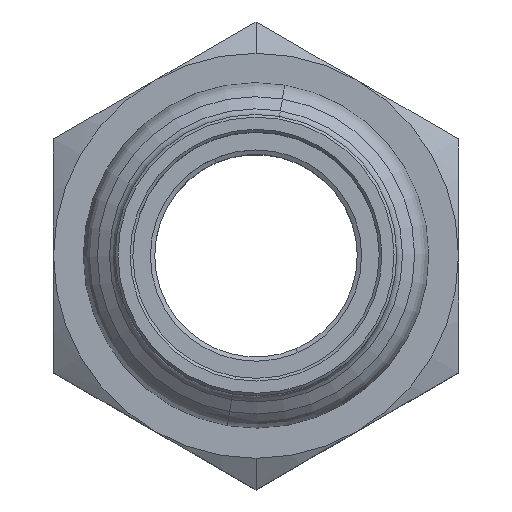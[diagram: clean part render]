
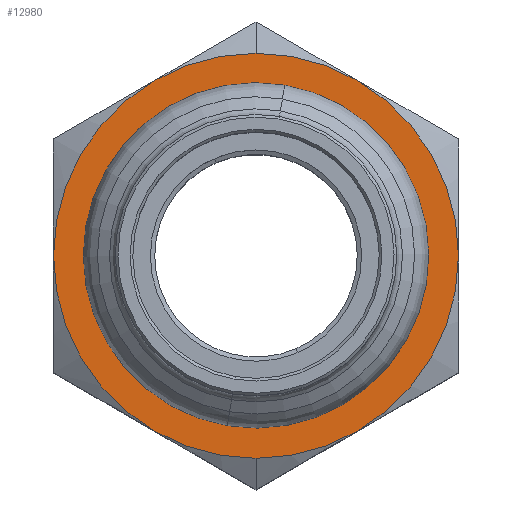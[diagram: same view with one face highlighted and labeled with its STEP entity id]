
A CAD part, top view. The second image highlights one B-rep face of the part: STEP entity #12980.
In plain terms, the highlighted planar face has unit normal (0, 0, 1) as drawn and (1, 0, 0) by its records, which use the part's own axes.
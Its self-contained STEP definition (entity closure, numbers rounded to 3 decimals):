
#60=CARTESIAN_POINT('',(-57.194,103.88,0.));
#70=DIRECTION('',(1.,0.,0.));
#80=DIRECTION('',(0.,-1.,0.));
#90=AXIS2_PLACEMENT_3D('',#60,#70,#80);
#100=CIRCLE('',#90,15.);
#110=CARTESIAN_POINT('',(-57.194,116.871,
-7.5));
#120=VERTEX_POINT('',#110);
#130=CARTESIAN_POINT('',(-57.194,118.88,0.));
#140=VERTEX_POINT('',#130);
#150=EDGE_CURVE('',#120,#140,#100,.T.);
#1240=CARTESIAN_POINT('',(-57.194,103.88,15.));
#1250=VERTEX_POINT('',#1240);
#1300=CARTESIAN_POINT('',(-57.194,90.89,
7.5));
#1310=VERTEX_POINT('',#1300);
#1320=EDGE_CURVE('',#1250,#1310,#100,.T.);
#2320=CARTESIAN_POINT('',(-57.194,90.89,
-7.5));
#2330=VERTEX_POINT('',#2320);
#2400=CARTESIAN_POINT('',(-57.194,88.88,
0.));
#2410=VERTEX_POINT('',#2400);
#2440=EDGE_CURVE('',#2410,#2330,#100,.T.);
#8560=CARTESIAN_POINT('',(-57.194,103.88,-15.));
#8570=VERTEX_POINT('',#8560);
#10750=CARTESIAN_POINT('',(-57.194,116.871,
7.5));
#10760=VERTEX_POINT('',#10750);
#12630=CARTESIAN_POINT('',(-57.194,96.38,0.));
#12640=DIRECTION('',(1.,0.,0.));
#12650=DIRECTION('',(0.,-1.,0.));
#12660=AXIS2_PLACEMENT_3D('',#12630,#12640,#12650);
#12670=PLANE('',#12660);
#12680=EDGE_CURVE('',#1310,#2410,#100,.T.);
#12690=ORIENTED_EDGE('',*,*,#12680,.T.);
#12700=ORIENTED_EDGE('',*,*,#1320,.T.);
#12710=EDGE_CURVE('',#10760,#1250,#100,.T.);
#12720=ORIENTED_EDGE('',*,*,#12710,.T.);
#12730=EDGE_CURVE('',#140,#10760,#100,.T.);
#12740=ORIENTED_EDGE('',*,*,#12730,.T.);
#12750=ORIENTED_EDGE('',*,*,#150,.T.);
#12760=EDGE_CURVE('',#8570,#120,#100,.T.);
#12770=ORIENTED_EDGE('',*,*,#12760,.T.);
#12780=EDGE_CURVE('',#2330,#8570,#100,.T.);
#12790=ORIENTED_EDGE('',*,*,#12780,.T.);
#12800=ORIENTED_EDGE('',*,*,#2440,.T.);
#12810=EDGE_LOOP('',(#12800,#12790,#12770,#12750,#12740,#12720,#12700,
#12690));
#12820=FACE_OUTER_BOUND('',#12810,.T.);
#12830=CARTESIAN_POINT('',(-57.194,103.88,0.));
#12840=DIRECTION('',(1.,0.,0.));
#12850=DIRECTION('',(0.,-1.,0.));
#12860=AXIS2_PLACEMENT_3D('',#12830,#12840,#12850);
#12870=CIRCLE('',#12860,11.677);
#12880=CARTESIAN_POINT('',(-57.194,115.558,
0.));
#12890=VERTEX_POINT('',#12880);
#12900=CARTESIAN_POINT('',(-57.194,92.203,
0.));
#12910=VERTEX_POINT('',#12900);
#12920=EDGE_CURVE('',#12890,#12910,#12870,.T.);
#12930=ORIENTED_EDGE('',*,*,#12920,.F.);
#12940=EDGE_CURVE('',#12910,#12890,#12870,.T.);
#12950=ORIENTED_EDGE('',*,*,#12940,.F.);
#12960=EDGE_LOOP('',(#12950,#12930));
#12970=FACE_BOUND('',#12960,.T.);
#12980=ADVANCED_FACE('',(#12820,#12970),#12670,.T.);
